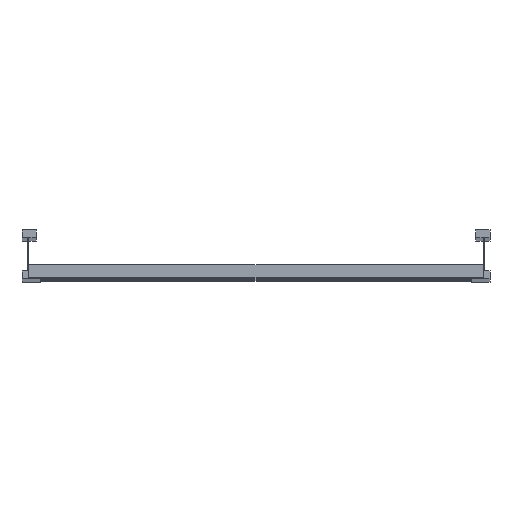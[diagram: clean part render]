
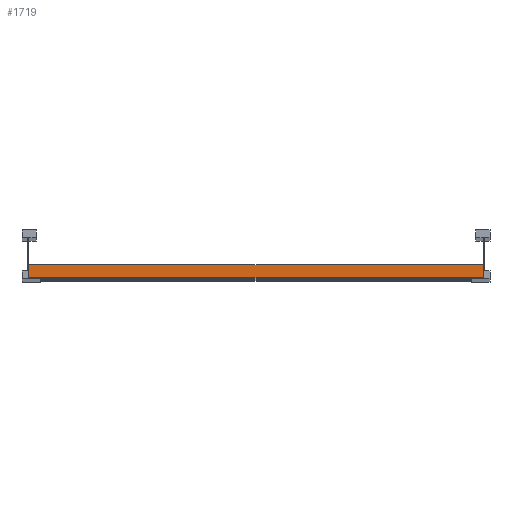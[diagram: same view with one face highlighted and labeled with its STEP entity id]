
A CAD part, top view. The second image highlights one B-rep face of the part: STEP entity #1719.
In plain terms, the highlighted planar face has unit normal (0, 0, 1).
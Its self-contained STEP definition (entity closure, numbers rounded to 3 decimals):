
#126 = DIRECTION ( 'NONE',  ( -1., 0., 0. ) ) ;
#190 = CARTESIAN_POINT ( 'NONE',  ( 348.5, 0., 20.25 ) ) ;
#384 = DIRECTION ( 'NONE',  ( 0., 0., -1. ) ) ;
#503 = VECTOR ( 'NONE', #968, 1000. ) ;
#586 = VERTEX_POINT ( 'NONE', #1954 ) ;
#642 = EDGE_LOOP ( 'NONE', ( #2133, #4096, #3431, #5250 ) ) ;
#693 = CARTESIAN_POINT ( 'NONE',  ( -348.5, 0., 20.25 ) ) ;
#767 = CARTESIAN_POINT ( 'NONE',  ( 348.5, 20., 20.25 ) ) ;
#848 = CARTESIAN_POINT ( 'NONE',  ( 348.5, 20., 20.25 ) ) ;
#940 = VECTOR ( 'NONE', #3194, 1000. ) ;
#968 = DIRECTION ( 'NONE',  ( -1., 0., 0. ) ) ;
#1342 = LINE ( 'NONE', #3252, #940 ) ;
#1365 = VECTOR ( 'NONE', #2687, 1000. ) ;
#1552 = EDGE_CURVE ( 'NONE', #586, #5918, #3155, .T. ) ;
#1719 = ADVANCED_FACE ( 'NONE', ( #4640 ), #3237, .F. ) ;
#1842 = EDGE_CURVE ( 'NONE', #586, #2291, #5264, .T. ) ;
#1954 = CARTESIAN_POINT ( 'NONE',  ( 348.5, 20., 20.25 ) ) ;
#2133 = ORIENTED_EDGE ( 'NONE', *, *, #3636, .T. ) ;
#2291 = VERTEX_POINT ( 'NONE', #5200 ) ;
#2687 = DIRECTION ( 'NONE',  ( 0., -1., 0. ) ) ;
#2764 = DIRECTION ( 'NONE',  ( 0., 1., 0. ) ) ;
#2951 = VECTOR ( 'NONE', #126, 1000. ) ;
#3155 = LINE ( 'NONE', #767, #1365 ) ;
#3194 = DIRECTION ( 'NONE',  ( 0., -1., 0. ) ) ;
#3237 = PLANE ( 'NONE',  #3626 ) ;
#3252 = CARTESIAN_POINT ( 'NONE',  ( -348.5, 20., 20.25 ) ) ;
#3431 = ORIENTED_EDGE ( 'NONE', *, *, #1552, .F. ) ;
#3626 = AXIS2_PLACEMENT_3D ( 'NONE', #848, #384, #2764 ) ;
#3636 = EDGE_CURVE ( 'NONE', #2291, #5856, #1342, .T. ) ;
#4096 = ORIENTED_EDGE ( 'NONE', *, *, #4482, .F. ) ;
#4362 = LINE ( 'NONE', #190, #2951 ) ;
#4456 = CARTESIAN_POINT ( 'NONE',  ( 348.5, 0., 20.25 ) ) ;
#4482 = EDGE_CURVE ( 'NONE', #5918, #5856, #4362, .T. ) ;
#4640 = FACE_OUTER_BOUND ( 'NONE', #642, .T. ) ;
#5200 = CARTESIAN_POINT ( 'NONE',  ( -348.5, 20., 20.25 ) ) ;
#5250 = ORIENTED_EDGE ( 'NONE', *, *, #1842, .T. ) ;
#5264 = LINE ( 'NONE', #5296, #503 ) ;
#5296 = CARTESIAN_POINT ( 'NONE',  ( 348.5, 20., 20.25 ) ) ;
#5856 = VERTEX_POINT ( 'NONE', #693 ) ;
#5918 = VERTEX_POINT ( 'NONE', #4456 ) ;
